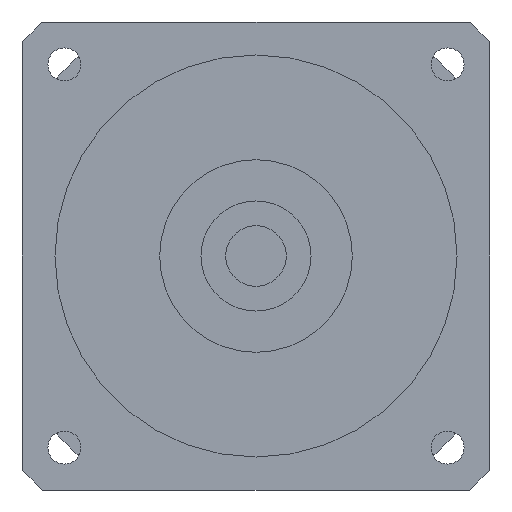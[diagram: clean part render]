
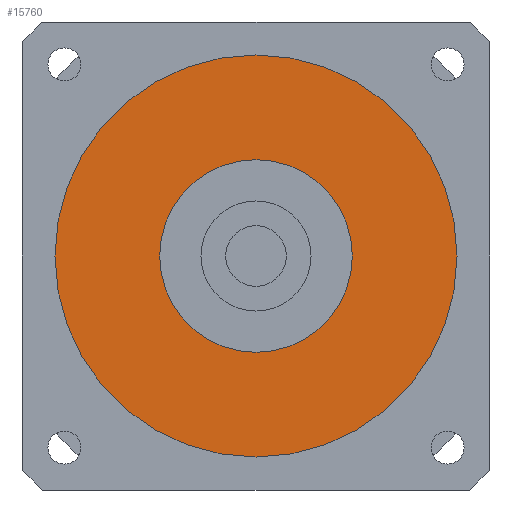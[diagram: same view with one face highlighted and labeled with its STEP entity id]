
A CAD part, left-side view. The second image highlights one B-rep face of the part: STEP entity #15760.
In plain terms, the highlighted planar face has unit normal (-1, 0, 0) as drawn and (0, 0, -1) by its records, which use the part's own axes.
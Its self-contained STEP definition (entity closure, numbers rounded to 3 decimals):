
#15150=CARTESIAN_POINT('',(0.,0.,
-92.5));
#15160=DIRECTION('',(0.,0.,1.));
#15170=DIRECTION('',(0.,-1.,0.));
#15180=AXIS2_PLACEMENT_3D('',#15150,#15160,#15170);
#15190=CIRCLE('',#15180,17.5);
#15200=CARTESIAN_POINT('',(0.,-17.5,-92.5));
#15210=VERTEX_POINT('',#15200);
#15220=CARTESIAN_POINT('',(17.5,0.,-92.5));
#15230=VERTEX_POINT('',#15220);
#15240=EDGE_CURVE('',#15210,#15230,#15190,.T.);
#15370=CARTESIAN_POINT('',(-17.5,0.,-92.5));
#15380=VERTEX_POINT('',#15370);
#15410=EDGE_CURVE('',#15380,#15210,#15190,.T.);
#15460=CARTESIAN_POINT('',(0.,0.,
-92.5));
#15470=DIRECTION('',(0.,0.,1.));
#15480=DIRECTION('',(-1.,0.,0.));
#15490=AXIS2_PLACEMENT_3D('',#15460,#15470,#15480);
#15500=PLANE('',#15490);
#15510=CARTESIAN_POINT('',(0.,0.,
-92.5));
#15520=DIRECTION('',(0.,0.,1.));
#15530=DIRECTION('',(0.,-1.,0.));
#15540=AXIS2_PLACEMENT_3D('',#15510,#15520,#15530);
#15550=CIRCLE('',#15540,36.51);
#15560=CARTESIAN_POINT('',(0.,-36.51,-92.5));
#15570=VERTEX_POINT('',#15560);
#15580=CARTESIAN_POINT('',(36.51,0.,-92.5));
#15590=VERTEX_POINT('',#15580);
#15600=EDGE_CURVE('',#15570,#15590,#15550,.T.);
#15610=ORIENTED_EDGE('',*,*,#15600,.F.);
#15620=CARTESIAN_POINT('',(-36.51,0.,-92.5));
#15630=VERTEX_POINT('',#15620);
#15640=EDGE_CURVE('',#15590,#15630,#15550,.T.);
#15650=ORIENTED_EDGE('',*,*,#15640,.F.);
#15660=EDGE_CURVE('',#15630,#15570,#15550,.T.);
#15670=ORIENTED_EDGE('',*,*,#15660,.F.);
#15680=EDGE_LOOP('',(#15670,#15650,#15610));
#15690=FACE_OUTER_BOUND('',#15680,.T.);
#15700=EDGE_CURVE('',#15230,#15380,#15190,.T.);
#15710=ORIENTED_EDGE('',*,*,#15700,.T.);
#15720=ORIENTED_EDGE('',*,*,#15240,.T.);
#15730=ORIENTED_EDGE('',*,*,#15410,.T.);
#15740=EDGE_LOOP('',(#15730,#15720,#15710));
#15750=FACE_BOUND('',#15740,.T.);
#15760=ADVANCED_FACE('',(#15690,#15750),#15500,.F.);
